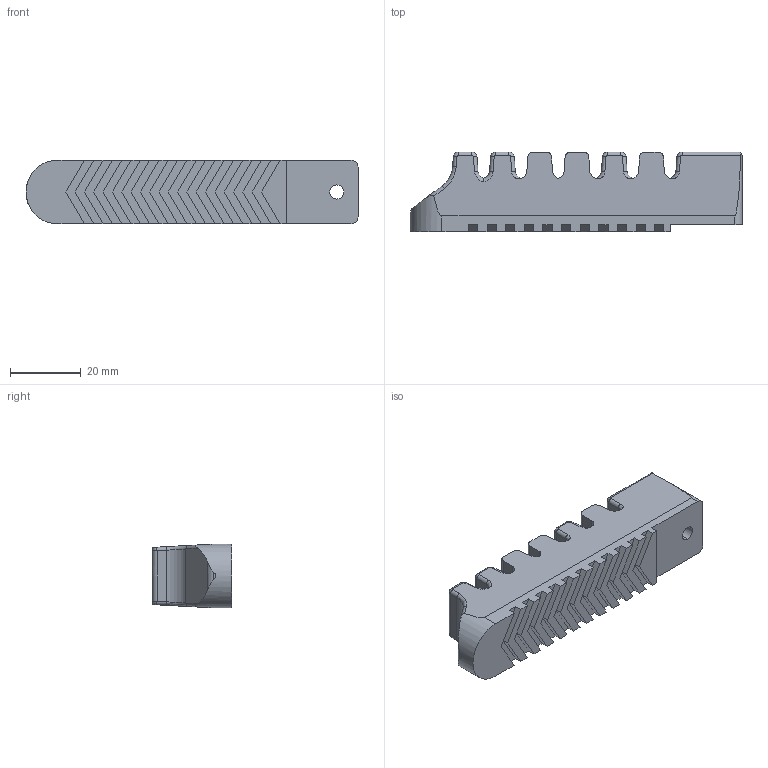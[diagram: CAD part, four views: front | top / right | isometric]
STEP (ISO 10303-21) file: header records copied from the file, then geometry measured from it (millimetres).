
FILE_DESCRIPTION (( 'STEP AP214' ), '1' );
FILE_NAME ('B7.STEP', '2019-12-04T07:41:29', ( '微软用户' ), ( '微软中国' ), 'SwSTEP 2.0', 'SolidWorks 2016', '' );
FILE_SCHEMA (( 'AUTOMOTIVE_DESIGN' ));
Length unit declared in the file: millimetre
Products named in the file (1): B7
Bounding box: 93.53 x 22.5 x 18 mm (x, y, z)
Volume: 29110.2 mm3; surface area: 9340.9 mm2
Topology: 1 solids, 1 shells, 181 faces, 490 edges, 311 vertices
Faces by surface type: plane 96, cylinder 57, bspline 28
Entity records: 9195 total; most frequent: CARTESIAN_POINT 3003, ORIENTED_EDGE 980, DIRECTION 739, EDGE_CURVE 490, VECTOR 333, LINE 333, VERTEX_POINT 311, AXIS2_PLACEMENT_3D 203
